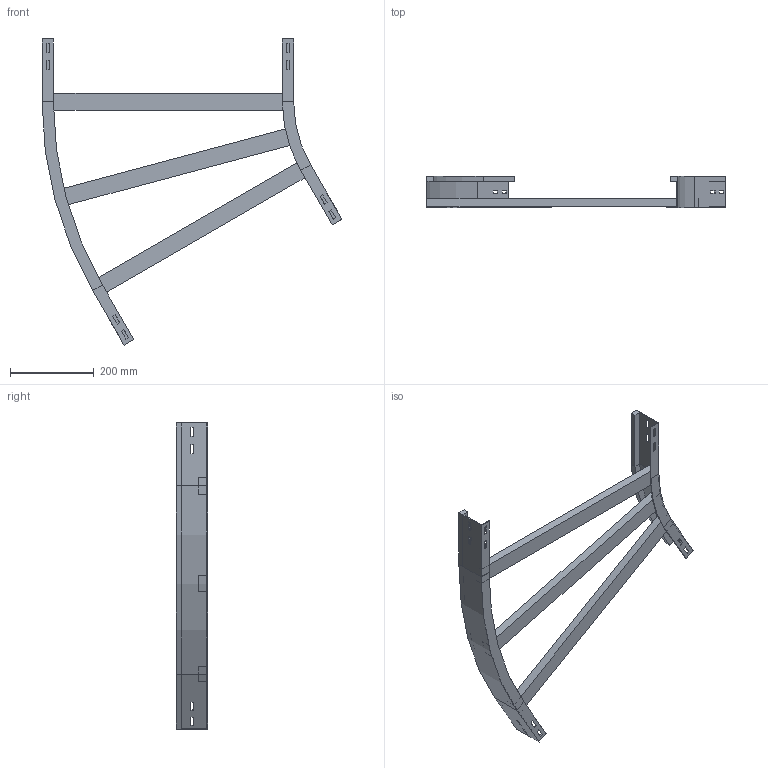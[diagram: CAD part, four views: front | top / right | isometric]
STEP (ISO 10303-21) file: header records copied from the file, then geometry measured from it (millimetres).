
FILE_DESCRIPTION (( 'STEP AP214' ), '1' );
FILE_NAME ('A2_12B3C600.step', '2025-02-21T15:10:48', ( '' ), ( '' ), 'SwSTEP 2.0', 'SolidWorks 2023', '' );
FILE_SCHEMA (( 'AUTOMOTIVE_DESIGN' ));
Length unit declared in the file: millimetre
Products named in the file (4): TRAVERSINO_600; A2_LONGH.INTERNO 30°_H75_R300; A2_LONGH.ESTERNO 30°_H75_R300+600; A2_12B3C600
Assembly tree (5 placements, depth 2):
  A2_12B3C600
    A2_LONGH.INTERNO 30°_H75_R300
    A2_LONGH.ESTERNO 30°_H75_R300+600
    TRAVERSINO_600  x3
Bounding box: 715.19 x 75 x 729.9 mm (x, y, z)
Volume: 1924852.9 mm3; surface area: 509587.2 mm2
Topology: 5 solids, 5 shells, 134 faces, 340 edges, 216 vertices
Faces by surface type: plane 126, cylinder 8
Entity records: 3821 total; most frequent: CARTESIAN_POINT 646, ORIENTED_EDGE 632, DIRECTION 592, EDGE_CURVE 316, LINE 300, VECTOR 300, VERTEX_POINT 200, EDGE_LOOP 154
